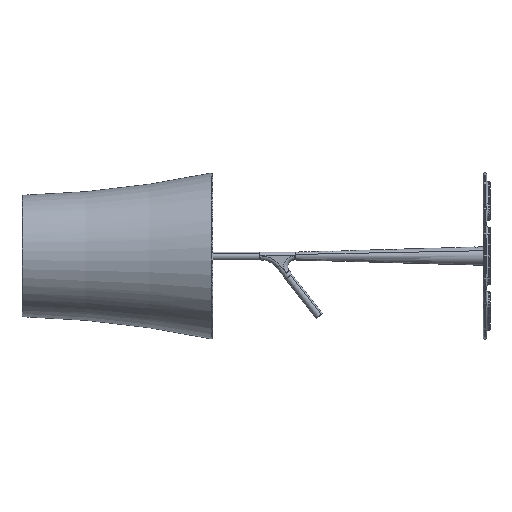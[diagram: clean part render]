
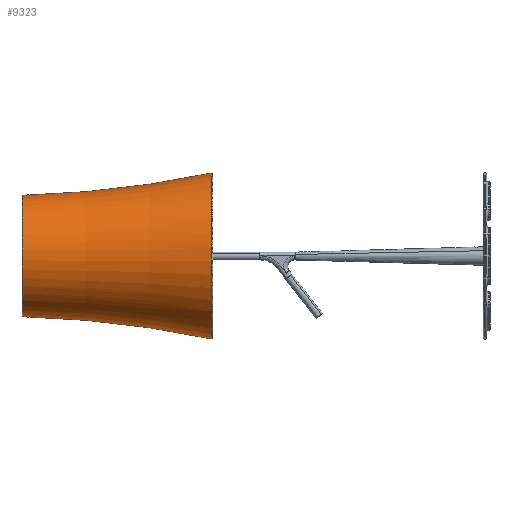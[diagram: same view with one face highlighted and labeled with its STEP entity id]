
A CAD part, left-side view. The second image highlights one B-rep face of the part: STEP entity #9323.
In plain terms, the highlighted toroidal (fillet/blend) face has major radius 1690.73 mm and minor radius 1600 mm.
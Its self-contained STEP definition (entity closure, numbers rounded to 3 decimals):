
#24 = DIRECTION ( 'NONE',  ( -1., 0., 0. ) ) ;
#86 = CARTESIAN_POINT ( 'NONE',  ( -186.801, 707.636, 115.735 ) ) ;
#98 = TOROIDAL_SURFACE ( 'NONE', #1061, 1690.725, 1600. ) ;
#144 = CARTESIAN_POINT ( 'NONE',  ( -186.801, 707.636, -4.986 ) ) ;
#200 = CARTESIAN_POINT ( 'NONE',  ( -200.086, 707.636, 14.897 ) ) ;
#259 = CARTESIAN_POINT ( 'NONE',  ( -117.986, 423.6, -69.417 ) ) ;
#322 = CARTESIAN_POINT ( 'NONE',  ( -242.777, 423.6, 47.207 ) ) ;
#637 = DIRECTION ( 'NONE',  ( 0., 1., 0. ) ) ;
#888 = CARTESIAN_POINT ( 'NONE',  ( -117.986, 423.6, -69.417 ) ) ;
#991 = CARTESIAN_POINT ( 'NONE',  ( -129.942, 707.636, 146.127 ) ) ;
#1061 = AXIS2_PLACEMENT_3D ( 'NONE', #11744, #637, #3403 ) ;
#1108 = CARTESIAN_POINT ( 'NONE',  ( -126.153, 423.6, -69.417 ) ) ;
#1162 = CARTESIAN_POINT ( 'NONE',  ( -200.451, 423.6, -38.642 ) ) ;
#1229 = CARTESIAN_POINT ( 'NONE',  ( -230.153, 423.6, 110.676 ) ) ;
#1285 = CARTESIAN_POINT ( 'NONE',  ( -200.086, 707.636, 95.852 ) ) ;
#1348 = CARTESIAN_POINT ( 'NONE',  ( -158.196, 423.6, 173.793 ) ) ;
#1692 = ORIENTED_EDGE ( 'NONE', *, *, #3171, .T. ) ;
#2053 = CARTESIAN_POINT ( 'NONE',  ( -238.786, 423.6, 87.731 ) ) ;
#2162 = CARTESIAN_POINT ( 'NONE',  ( -178.346, 707.636, 124.19 ) ) ;
#2165 = CARTESIAN_POINT ( 'NONE',  ( -226.284, 423.6, -7.165 ) ) ;
#2838 = CARTESIAN_POINT ( 'NONE',  ( -129.942, 707.636, -35.377 ) ) ;
#2962 = CARTESIAN_POINT ( 'NONE',  ( -173.287, 423.6, 167.542 ) ) ;
#3083 = CARTESIAN_POINT ( 'NONE',  ( -241.973, 423.6, 71.71 ) ) ;
#3171 = EDGE_CURVE ( 'NONE', #7682, #11796, #5382, .T. ) ;
#3268 = CARTESIAN_POINT ( 'NONE',  ( -117.986, 752.008, -1635.351 ) ) ;
#3403 = DIRECTION ( 'NONE',  ( 0., 0., 1. ) ) ;
#3760 = CARTESIAN_POINT ( 'NONE',  ( -197.254, 707.636, 9.599 ) ) ;
#3822 = CARTESIAN_POINT ( 'NONE',  ( -163.761, 707.636, 134.643 ) ) ;
#3844 = CIRCLE ( 'NONE', #4052, 1600. ) ;
#3878 = CARTESIAN_POINT ( 'NONE',  ( -134.321, 423.6, 179.362 ) ) ;
#4002 = CARTESIAN_POINT ( 'NONE',  ( -147.417, 707.636, -31.301 ) ) ;
#4052 = AXIS2_PLACEMENT_3D ( 'NONE', #7506, #24, #11213 ) ;
#4124 = CARTESIAN_POINT ( 'NONE',  ( -230.153, 423.6, 0.073 ) ) ;
#4735 = CARTESIAN_POINT ( 'NONE',  ( -173.703, 707.636, 128. ) ) ;
#4792 = CARTESIAN_POINT ( 'NONE',  ( -126.153, 423.6, 180.166 ) ) ;
#4851 = CARTESIAN_POINT ( 'NONE',  ( -194.107, 423.6, 154.597 ) ) ;
#4907 = CARTESIAN_POINT ( 'NONE',  ( -206.405, 707.636, 31.692 ) ) ;
#4909 = CARTESIAN_POINT ( 'NONE',  ( -212.002, 423.6, 137.84 ) ) ;
#4925 = VERTEX_POINT ( 'NONE', #12022 ) ;
#4971 = CARTESIAN_POINT ( 'NONE',  ( -209.327, 707.636, 49.396 ) ) ;
#4972 = CARTESIAN_POINT ( 'NONE',  ( -238.786, 423.6, 23.018 ) ) ;
#5382 = B_SPLINE_CURVE_WITH_KNOTS ( 'NONE', 3,
 ( #9343, #10250, #991, #8425, #7192, #10912, #3822, #4735, #2162, #86, #10542, #10483, #1285, #6690, #7508, #6631, #8481, #4971, #5899, #4907, #9508, #200, #3760, #6754, #144, #6566, #11215, #9634, #10298, #4002, #11440, #2838, #5712, #7565 ),
 .UNSPECIFIED., .F., .F.,
 ( 4, 2, 2, 2, 2, 2, 2, 2, 2, 2, 2, 2, 2, 2, 2, 2, 4 ),
 ( 0.5, 0.531, 0.563, 0.594, 0.625, 0.656, 0.688, 0.719, 0.75, 0.781, 0.813, 0.844, 0.875, 0.906, 0.938, 0.969, 1. ),
 .UNSPECIFIED. ) ;
#5492 = EDGE_CURVE ( 'NONE', #11796, #8123, #11956, .T. ) ;
#5712 = CARTESIAN_POINT ( 'NONE',  ( -123.964, 707.636, -35.966 ) ) ;
#5715 = CARTESIAN_POINT ( 'NONE',  ( -158.196, 423.6, -63.044 ) ) ;
#5785 = CARTESIAN_POINT ( 'NONE',  ( -180.525, 423.6, -52.924 ) ) ;
#5842 = CARTESIAN_POINT ( 'NONE',  ( -217.209, 423.6, 131.496 ) ) ;
#5899 = CARTESIAN_POINT ( 'NONE',  ( -208.738, 707.636, 43.418 ) ) ;
#5958 = CARTESIAN_POINT ( 'NONE',  ( -134.321, 423.6, -68.613 ) ) ;
#6566 = CARTESIAN_POINT ( 'NONE',  ( -178.346, 707.636, -13.44 ) ) ;
#6631 = CARTESIAN_POINT ( 'NONE',  ( -208.738, 707.636, 67.331 ) ) ;
#6690 = CARTESIAN_POINT ( 'NONE',  ( -204.661, 707.636, 84.806 ) ) ;
#6754 = CARTESIAN_POINT ( 'NONE',  ( -190.612, 707.636, -0.342 ) ) ;
#6815 = CARTESIAN_POINT ( 'NONE',  ( -200.451, 423.6, 149.391 ) ) ;
#7078 = DIRECTION ( 'NONE',  ( 1., 0., 0. ) ) ;
#7192 = CARTESIAN_POINT ( 'NONE',  ( -147.417, 707.636, 142.05 ) ) ;
#7342 = EDGE_CURVE ( 'NONE', #7682, #4925, #3844, .T. ) ;
#7506 = CARTESIAN_POINT ( 'NONE',  ( -117.986, 752.008, 1746.1 ) ) ;
#7508 = CARTESIAN_POINT ( 'NONE',  ( -206.405, 707.636, 79.058 ) ) ;
#7565 = CARTESIAN_POINT ( 'NONE',  ( -117.986, 707.636, -35.966 ) ) ;
#7681 = CARTESIAN_POINT ( 'NONE',  ( -150.342, 423.6, 176.175 ) ) ;
#7682 = VERTEX_POINT ( 'NONE', #10387 ) ;
#7749 = CARTESIAN_POINT ( 'NONE',  ( -150.342, 423.6, -65.426 ) ) ;
#7857 = CARTESIAN_POINT ( 'NONE',  ( -180.525, 423.6, 163.673 ) ) ;
#8123 = VERTEX_POINT ( 'NONE', #888 ) ;
#8183 = FACE_OUTER_BOUND ( 'NONE', #9024, .T. ) ;
#8425 = CARTESIAN_POINT ( 'NONE',  ( -141.669, 707.636, 143.794 ) ) ;
#8481 = CARTESIAN_POINT ( 'NONE',  ( -209.327, 707.636, 61.353 ) ) ;
#8661 = CARTESIAN_POINT ( 'NONE',  ( -241.973, 423.6, 39.04 ) ) ;
#9024 = EDGE_LOOP ( 'NONE', ( #1692, #10673, #10095, #9493 ) ) ;
#9323 = ADVANCED_FACE ( 'NONE', ( #8183 ), #98, .F. ) ;
#9343 = CARTESIAN_POINT ( 'NONE',  ( -117.986, 707.636, 146.715 ) ) ;
#9427 = EDGE_CURVE ( 'NONE', #8123, #4925, #9832, .T. ) ;
#9445 = AXIS2_PLACEMENT_3D ( 'NONE', #3268, #7078, #11617 ) ;
#9493 = ORIENTED_EDGE ( 'NONE', *, *, #7342, .F. ) ;
#9508 = CARTESIAN_POINT ( 'NONE',  ( -204.661, 707.636, 25.943 ) ) ;
#9510 = CARTESIAN_POINT ( 'NONE',  ( -242.777, 423.6, 63.542 ) ) ;
#9567 = CARTESIAN_POINT ( 'NONE',  ( -117.986, 707.636, -35.966 ) ) ;
#9578 = CARTESIAN_POINT ( 'NONE',  ( -236.404, 423.6, 15.165 ) ) ;
#9634 = CARTESIAN_POINT ( 'NONE',  ( -163.761, 707.636, -23.894 ) ) ;
#9636 = CARTESIAN_POINT ( 'NONE',  ( -236.404, 423.6, 95.584 ) ) ;
#9832 = B_SPLINE_CURVE_WITH_KNOTS ( 'NONE', 3,
 ( #259, #1108, #5958, #7749, #5715, #11442, #5785, #11324, #1162, #10485, #10427, #2165, #4124, #9578, #4972, #8661, #322, #9510, #3083, #2053, #9636, #1229, #11555, #5842, #4909, #6815, #4851, #7857, #2962, #1348, #7681, #3878, #4792, #10547 ),
 .UNSPECIFIED., .F., .F.,
 ( 4, 2, 2, 2, 2, 2, 2, 2, 2, 2, 2, 2, 2, 2, 2, 2, 4 ),
 ( 0., 0.031, 0.062, 0.094, 0.125, 0.156, 0.187, 0.219, 0.25, 0.281, 0.312, 0.344, 0.375, 0.406, 0.437, 0.469, 0.5 ),
 .UNSPECIFIED. ) ;
#10095 = ORIENTED_EDGE ( 'NONE', *, *, #9427, .T. ) ;
#10250 = CARTESIAN_POINT ( 'NONE',  ( -123.964, 707.636, 146.715 ) ) ;
#10298 = CARTESIAN_POINT ( 'NONE',  ( -158.464, 707.636, -26.726 ) ) ;
#10387 = CARTESIAN_POINT ( 'NONE',  ( -117.986, 707.636, 146.715 ) ) ;
#10427 = CARTESIAN_POINT ( 'NONE',  ( -217.209, 423.6, -20.747 ) ) ;
#10483 = CARTESIAN_POINT ( 'NONE',  ( -197.254, 707.636, 101.15 ) ) ;
#10485 = CARTESIAN_POINT ( 'NONE',  ( -212.002, 423.6, -27.091 ) ) ;
#10542 = CARTESIAN_POINT ( 'NONE',  ( -190.612, 707.636, 111.092 ) ) ;
#10547 = CARTESIAN_POINT ( 'NONE',  ( -117.986, 423.6, 180.166 ) ) ;
#10673 = ORIENTED_EDGE ( 'NONE', *, *, #5492, .T. ) ;
#10912 = CARTESIAN_POINT ( 'NONE',  ( -158.464, 707.636, 137.475 ) ) ;
#11213 = DIRECTION ( 'NONE',  ( 0., 0., 1. ) ) ;
#11215 = CARTESIAN_POINT ( 'NONE',  ( -173.703, 707.636, -17.251 ) ) ;
#11324 = CARTESIAN_POINT ( 'NONE',  ( -194.107, 423.6, -43.848 ) ) ;
#11440 = CARTESIAN_POINT ( 'NONE',  ( -141.669, 707.636, -33.045 ) ) ;
#11442 = CARTESIAN_POINT ( 'NONE',  ( -173.287, 423.6, -56.792 ) ) ;
#11555 = CARTESIAN_POINT ( 'NONE',  ( -226.284, 423.6, 117.914 ) ) ;
#11617 = DIRECTION ( 'NONE',  ( 0., 0., -1. ) ) ;
#11744 = CARTESIAN_POINT ( 'NONE',  ( -117.986, 752.008, 55.375 ) ) ;
#11796 = VERTEX_POINT ( 'NONE', #9567 ) ;
#11956 = CIRCLE ( 'NONE', #9445, 1600. ) ;
#12022 = CARTESIAN_POINT ( 'NONE',  ( -117.986, 423.6, 180.166 ) ) ;
